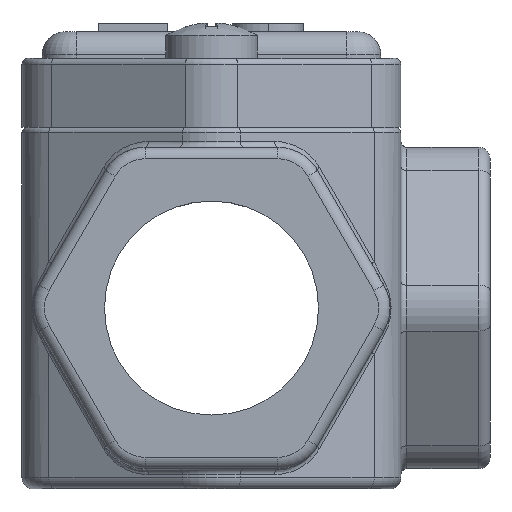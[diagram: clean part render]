
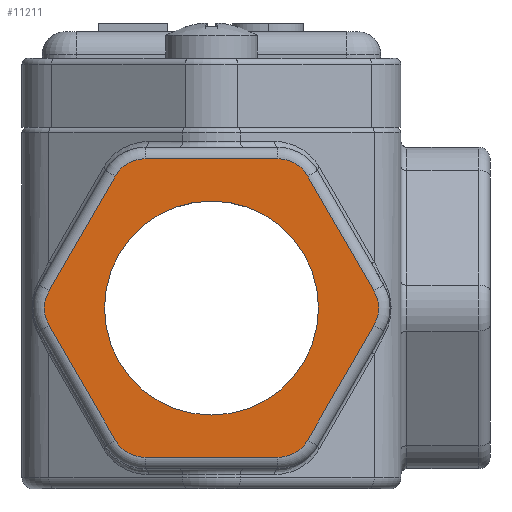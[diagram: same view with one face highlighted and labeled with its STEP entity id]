
A CAD part, left-side view. The second image highlights one B-rep face of the part: STEP entity #11211.
In plain terms, the highlighted planar face has unit normal (-1, 0, 0).
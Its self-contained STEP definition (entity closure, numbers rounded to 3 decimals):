
#9 = VERTEX_POINT ( 'NONE', #9651 ) ;
#129 = DIRECTION ( 'NONE',  ( 0., 0.5, 0.866 ) ) ;
#357 = CARTESIAN_POINT ( 'NONE',  ( -78.436, -5.286, 21.225 ) ) ;
#517 = CARTESIAN_POINT ( 'NONE',  ( -78.436, 12.035, 8.225 ) ) ;
#532 = DIRECTION ( 'NONE',  ( 0., -0.5, 0.866 ) ) ;
#809 = EDGE_CURVE ( 'NONE', #4084, #10079, #14117, .T. ) ;
#909 = DIRECTION ( 'NONE',  ( 0., 0.5, -0.866 ) ) ;
#1045 = CIRCLE ( 'NONE', #5352, 3. ) ;
#1266 = VERTEX_POINT ( 'NONE', #7480 ) ;
#1518 = LINE ( 'NONE', #2953, #10838 ) ;
#1630 = DIRECTION ( 'NONE',  ( 1., 0., 0. ) ) ;
#1663 = EDGE_CURVE ( 'NONE', #9, #13803, #2297, .T. ) ;
#1810 = DIRECTION ( 'NONE',  ( 1., 0., 0. ) ) ;
#2047 = LINE ( 'NONE', #2619, #2229 ) ;
#2194 = LINE ( 'NONE', #12733, #3638 ) ;
#2229 = VECTOR ( 'NONE', #2715, 1000. ) ;
#2297 = CIRCLE ( 'NONE', #10495, 3. ) ;
#2422 = EDGE_LOOP ( 'NONE', ( #12462 ) ) ;
#2619 = CARTESIAN_POINT ( 'NONE',  ( -78.436, -6.44, 25.225 ) ) ;
#2633 = DIRECTION ( 'NONE',  ( 0., -1., 0. ) ) ;
#2713 = EDGE_LOOP ( 'NONE', ( #12727, #6058, #9002, #13986, #14161, #10195, #4270, #10427, #9506, #9318, #8386, #12447 ) ) ;
#2715 = DIRECTION ( 'NONE',  ( 0., -0.5, -0.866 ) ) ;
#2824 = AXIS2_PLACEMENT_3D ( 'NONE', #7331, #1630, #9640 ) ;
#2953 = CARTESIAN_POINT ( 'NONE',  ( -78.436, -3.554, 12.225 ) ) ;
#3020 = AXIS2_PLACEMENT_3D ( 'NONE', #13617, #14837, #7866 ) ;
#3109 = AXIS2_PLACEMENT_3D ( 'NONE', #4946, #1810, #9879 ) ;
#3303 = CARTESIAN_POINT ( 'NONE',  ( -78.436, 0.488, 34.225 ) ) ;
#3307 = CIRCLE ( 'NONE', #3020, 3. ) ;
#3311 = DIRECTION ( 'NONE',  ( 0., -0.5, 0.866 ) ) ;
#3326 = CARTESIAN_POINT ( 'NONE',  ( -78.436, 6.261, 30.541 ) ) ;
#3597 = CARTESIAN_POINT ( 'NONE',  ( -78.436, 3.375, 34.225 ) ) ;
#3638 = VECTOR ( 'NONE', #129, 1000. ) ;
#3700 = DIRECTION ( 'NONE',  ( 0., 1., 0. ) ) ;
#3944 = EDGE_CURVE ( 'NONE', #6571, #10247, #11334, .T. ) ;
#4084 = VERTEX_POINT ( 'NONE', #9957 ) ;
#4107 = VERTEX_POINT ( 'NONE', #10159 ) ;
#4270 = ORIENTED_EDGE ( 'NONE', *, *, #11642, .F. ) ;
#4556 = CARTESIAN_POINT ( 'NONE',  ( -78.436, 0.488, 31.225 ) ) ;
#4946 = CARTESIAN_POINT ( 'NONE',  ( -78.436, 6.261, 21.225 ) ) ;
#5352 = AXIS2_PLACEMENT_3D ( 'NONE', #357, #12862, #13015 ) ;
#5608 = DIRECTION ( 'NONE',  ( 1., 0., 0. ) ) ;
#5853 = DIRECTION ( 'NONE',  ( 1., 0., 0. ) ) ;
#5994 = CIRCLE ( 'NONE', #7447, 3. ) ;
#6058 = ORIENTED_EDGE ( 'NONE', *, *, #12303, .F. ) ;
#6162 = CIRCLE ( 'NONE', #2824, 9.316 ) ;
#6175 = FACE_OUTER_BOUND ( 'NONE', #2713, .T. ) ;
#6186 = CARTESIAN_POINT ( 'NONE',  ( -78.436, 9.148, 8.225 ) ) ;
#6571 = VERTEX_POINT ( 'NONE', #14023 ) ;
#6635 = AXIS2_PLACEMENT_3D ( 'NONE', #13411, #7773, #14850 ) ;
#6656 = CARTESIAN_POINT ( 'NONE',  ( -78.436, 12.035, 11.225 ) ) ;
#6981 = CARTESIAN_POINT ( 'NONE',  ( -78.436, 17.808, 21.225 ) ) ;
#7246 = CIRCLE ( 'NONE', #14913, 3. ) ;
#7331 = CARTESIAN_POINT ( 'NONE',  ( -78.436, 6.261, 21.225 ) ) ;
#7447 = AXIS2_PLACEMENT_3D ( 'NONE', #6656, #13722, #909 ) ;
#7472 = CARTESIAN_POINT ( 'NONE',  ( -78.436, 16.076, 30.225 ) ) ;
#7480 = CARTESIAN_POINT ( 'NONE',  ( -78.436, -7.884, 22.725 ) ) ;
#7515 = EDGE_CURVE ( 'NONE', #10079, #8915, #13699, .T. ) ;
#7773 = DIRECTION ( 'NONE',  ( 1., 0., 0. ) ) ;
#7864 = VERTEX_POINT ( 'NONE', #13497 ) ;
#7866 = DIRECTION ( 'NONE',  ( 0., -0.5, -0.866 ) ) ;
#8386 = ORIENTED_EDGE ( 'NONE', *, *, #10824, .F. ) ;
#8420 = EDGE_CURVE ( 'NONE', #11801, #9, #2194, .T. ) ;
#8716 = CARTESIAN_POINT ( 'NONE',  ( -78.436, 14.633, 9.725 ) ) ;
#8915 = VERTEX_POINT ( 'NONE', #3303 ) ;
#9002 = ORIENTED_EDGE ( 'NONE', *, *, #3944, .F. ) ;
#9053 = CARTESIAN_POINT ( 'NONE',  ( -78.436, 20.407, 22.725 ) ) ;
#9318 = ORIENTED_EDGE ( 'NONE', *, *, #809, .F. ) ;
#9506 = ORIENTED_EDGE ( 'NONE', *, *, #7515, .F. ) ;
#9640 = DIRECTION ( 'NONE',  ( 0., 0., 1. ) ) ;
#9651 = CARTESIAN_POINT ( 'NONE',  ( -78.436, 20.407, 19.725 ) ) ;
#9879 = DIRECTION ( 'NONE',  ( 0., 0., -1. ) ) ;
#9904 = VERTEX_POINT ( 'NONE', #11373 ) ;
#9957 = CARTESIAN_POINT ( 'NONE',  ( -78.436, 14.633, 32.725 ) ) ;
#9997 = VERTEX_POINT ( 'NONE', #3326 ) ;
#10079 = VERTEX_POINT ( 'NONE', #14538 ) ;
#10159 = CARTESIAN_POINT ( 'NONE',  ( -78.436, -7.884, 19.725 ) ) ;
#10195 = ORIENTED_EDGE ( 'NONE', *, *, #14684, .F. ) ;
#10247 = VERTEX_POINT ( 'NONE', #517 ) ;
#10427 = ORIENTED_EDGE ( 'NONE', *, *, #12093, .F. ) ;
#10495 = AXIS2_PLACEMENT_3D ( 'NONE', #6981, #5853, #3700 ) ;
#10625 = VECTOR ( 'NONE', #2633, 1000. ) ;
#10674 = DIRECTION ( 'NONE',  ( 0., 1., 0. ) ) ;
#10685 = LINE ( 'NONE', #7472, #10867 ) ;
#10734 = PLANE ( 'NONE',  #3109 ) ;
#10824 = EDGE_CURVE ( 'NONE', #13803, #4084, #10685, .T. ) ;
#10838 = VECTOR ( 'NONE', #12274, 1000. ) ;
#10867 = VECTOR ( 'NONE', #532, 1000. ) ;
#11211 = ADVANCED_FACE ( 'NONE', ( #12497, #6175 ), #10734, .F. ) ;
#11334 = LINE ( 'NONE', #6186, #12966 ) ;
#11373 = CARTESIAN_POINT ( 'NONE',  ( -78.436, -2.11, 32.725 ) ) ;
#11642 = EDGE_CURVE ( 'NONE', #9904, #1266, #2047, .T. ) ;
#11733 = EDGE_CURVE ( 'NONE', #9997, #9997, #6162, .T. ) ;
#11801 = VERTEX_POINT ( 'NONE', #8716 ) ;
#11943 = EDGE_CURVE ( 'NONE', #4107, #7864, #1518, .T. ) ;
#12093 = EDGE_CURVE ( 'NONE', #8915, #9904, #7246, .T. ) ;
#12274 = DIRECTION ( 'NONE',  ( 0., 0.5, -0.866 ) ) ;
#12303 = EDGE_CURVE ( 'NONE', #10247, #11801, #5994, .T. ) ;
#12352 = EDGE_CURVE ( 'NONE', #7864, #6571, #3307, .T. ) ;
#12447 = ORIENTED_EDGE ( 'NONE', *, *, #1663, .F. ) ;
#12462 = ORIENTED_EDGE ( 'NONE', *, *, #11733, .T. ) ;
#12497 = FACE_BOUND ( 'NONE', #2422, .T. ) ;
#12727 = ORIENTED_EDGE ( 'NONE', *, *, #8420, .F. ) ;
#12733 = CARTESIAN_POINT ( 'NONE',  ( -78.436, 18.963, 17.225 ) ) ;
#12862 = DIRECTION ( 'NONE',  ( 1., 0., 0. ) ) ;
#12966 = VECTOR ( 'NONE', #10674, 1000. ) ;
#13015 = DIRECTION ( 'NONE',  ( 0., -1., 0. ) ) ;
#13411 = CARTESIAN_POINT ( 'NONE',  ( -78.436, 12.035, 31.225 ) ) ;
#13497 = CARTESIAN_POINT ( 'NONE',  ( -78.436, -2.11, 9.725 ) ) ;
#13617 = CARTESIAN_POINT ( 'NONE',  ( -78.436, 0.488, 11.225 ) ) ;
#13699 = LINE ( 'NONE', #3597, #10625 ) ;
#13722 = DIRECTION ( 'NONE',  ( 1., 0., 0. ) ) ;
#13803 = VERTEX_POINT ( 'NONE', #9053 ) ;
#13986 = ORIENTED_EDGE ( 'NONE', *, *, #12352, .F. ) ;
#14023 = CARTESIAN_POINT ( 'NONE',  ( -78.436, 0.488, 8.225 ) ) ;
#14117 = CIRCLE ( 'NONE', #6635, 3. ) ;
#14161 = ORIENTED_EDGE ( 'NONE', *, *, #11943, .F. ) ;
#14538 = CARTESIAN_POINT ( 'NONE',  ( -78.436, 12.035, 34.225 ) ) ;
#14684 = EDGE_CURVE ( 'NONE', #1266, #4107, #1045, .T. ) ;
#14837 = DIRECTION ( 'NONE',  ( 1., 0., 0. ) ) ;
#14850 = DIRECTION ( 'NONE',  ( 0., 0.5, 0.866 ) ) ;
#14913 = AXIS2_PLACEMENT_3D ( 'NONE', #4556, #5608, #3311 ) ;
